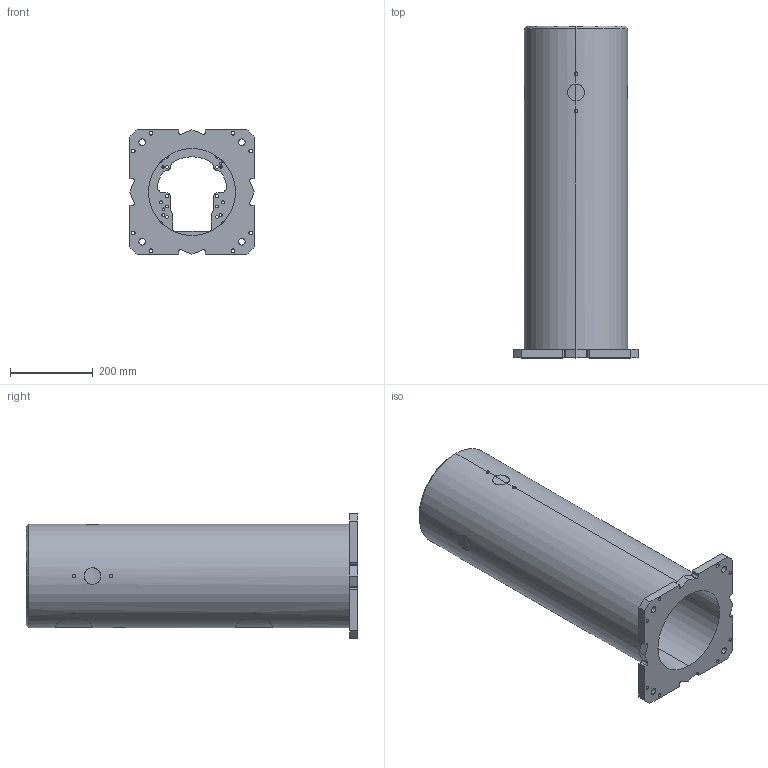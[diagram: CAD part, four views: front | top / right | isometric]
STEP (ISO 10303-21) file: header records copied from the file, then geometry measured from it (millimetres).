
FILE_DESCRIPTION (( 'STEP AP214' ), '1' );
FILE_NAME ('A-800.STEP', '2025-09-19T11:43:30', ( '' ), ( '' ), 'SwSTEP 2.0', 'SolidWorks 2022', '' );
FILE_SCHEMA (( 'AUTOMOTIVE_DESIGN' ));
Length unit declared in the file: millimetre
Products named in the file (1): A-800
Bounding box: 300 x 800 x 300 mm (x, y, z)
Volume: 12503841.8 mm3; surface area: 1310960.5 mm2
Topology: 1 solids, 1 shells, 236 faces, 672 edges, 442 vertices
Faces by surface type: cylinder 167, plane 43, bspline 24, cone 2
Entity records: 15445 total; most frequent: CARTESIAN_POINT 8323, ORIENTED_EDGE 1344, DIRECTION 1210, EDGE_CURVE 672, AXIS2_PLACEMENT_3D 479, VERTEX_POINT 442, EDGE_LOOP 314, CIRCLE 266
